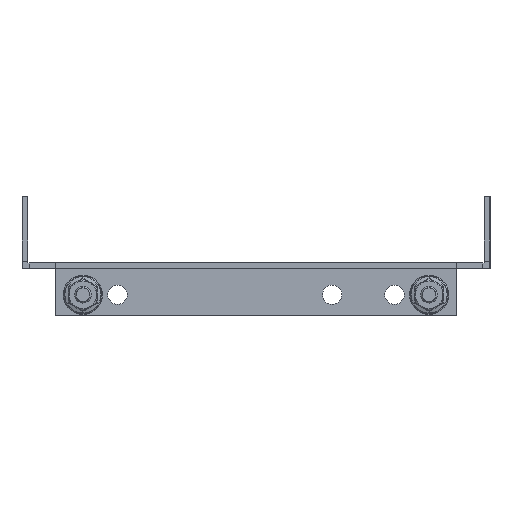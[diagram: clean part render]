
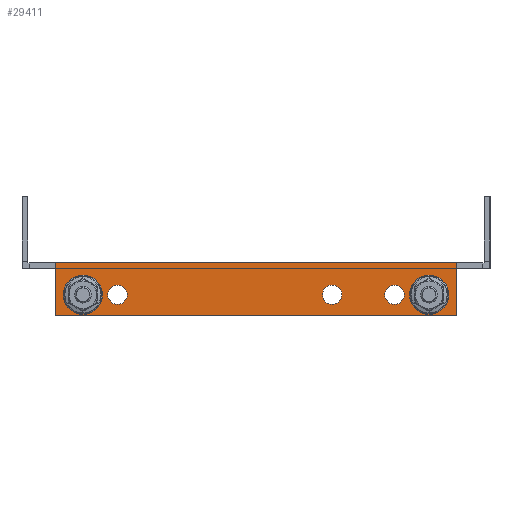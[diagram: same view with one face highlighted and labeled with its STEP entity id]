
A CAD part, left-side view. The second image highlights one B-rep face of the part: STEP entity #29411.
In plain terms, the highlighted planar face has unit normal (-1, 0, 0).
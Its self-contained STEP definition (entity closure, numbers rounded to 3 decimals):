
#13334 = VERTEX_POINT('',#13335);
#13335 = CARTESIAN_POINT('',(-450.,72.5,2.));
#13341 = EDGE_CURVE('',#13342,#13334,#13344,.T.);
#13342 = VERTEX_POINT('',#13343);
#13343 = CARTESIAN_POINT('',(-450.,-72.5,2.));
#13344 = LINE('',#13345,#13346);
#13345 = CARTESIAN_POINT('',(-450.,-82.5,2.));
#13346 = VECTOR('',#13347,1.);
#13347 = DIRECTION('',(-0.,1.,-0.));
#29290 = VERTEX_POINT('',#29291);
#29291 = CARTESIAN_POINT('',(-450.,-72.5,-0.6));
#29306 = EDGE_CURVE('',#29290,#13342,#29307,.T.);
#29307 = LINE('',#29308,#29309);
#29308 = CARTESIAN_POINT('',(-450.,-72.5,-0.6));
#29309 = VECTOR('',#29310,1.);
#29310 = DIRECTION('',(0.,-0.,1.));
#29330 = VERTEX_POINT('',#29331);
#29331 = CARTESIAN_POINT('',(-450.,72.5,-0.6));
#29337 = EDGE_CURVE('',#29330,#13334,#29338,.T.);
#29338 = LINE('',#29339,#29340);
#29339 = CARTESIAN_POINT('',(-450.,72.5,0.));
#29340 = VECTOR('',#29341,1.);
#29341 = DIRECTION('',(0.,0.,1.));
#29353 = EDGE_CURVE('',#29354,#29330,#29356,.T.);
#29354 = VERTEX_POINT('',#29355);
#29355 = CARTESIAN_POINT('',(-450.,72.5,-17.));
#29356 = LINE('',#29357,#29358);
#29357 = CARTESIAN_POINT('',(-450.,72.5,0.));
#29358 = VECTOR('',#29359,1.);
#29359 = DIRECTION('',(0.,-0.,1.));
#29393 = EDGE_CURVE('',#29290,#29394,#29396,.T.);
#29394 = VERTEX_POINT('',#29395);
#29395 = CARTESIAN_POINT('',(-450.,-72.5,-17.));
#29396 = LINE('',#29397,#29398);
#29397 = CARTESIAN_POINT('',(-450.,-72.5,-17.));
#29398 = VECTOR('',#29399,1.);
#29399 = DIRECTION('',(0.,0.,-1.));
#29411 = ADVANCED_FACE('',(#29412,#29423,#29443,#29463,#29474,#29485),
  #29498,.T.);
#29412 = FACE_BOUND('',#29413,.T.);
#29413 = EDGE_LOOP('',(#29414));
#29414 = ORIENTED_EDGE('',*,*,#29415,.T.);
#29415 = EDGE_CURVE('',#29416,#29416,#29418,.T.);
#29416 = VERTEX_POINT('',#29417);
#29417 = CARTESIAN_POINT('',(-450.,-27.5,-13.));
#29418 = CIRCLE('',#29419,3.5);
#29419 = AXIS2_PLACEMENT_3D('',#29420,#29421,#29422);
#29420 = CARTESIAN_POINT('',(-450.,-27.5,-9.5));
#29421 = DIRECTION('',(1.,0.,0.));
#29422 = DIRECTION('',(0.,-0.,-1.));
#29423 = FACE_BOUND('',#29424,.T.);
#29424 = EDGE_LOOP('',(#29425,#29436));
#29425 = ORIENTED_EDGE('',*,*,#29426,.F.);
#29426 = EDGE_CURVE('',#29427,#29429,#29431,.T.);
#29427 = VERTEX_POINT('',#29428);
#29428 = CARTESIAN_POINT('',(-450.,-62.5,-13.));
#29429 = VERTEX_POINT('',#29430);
#29430 = CARTESIAN_POINT('',(-450.,-62.5,-6.));
#29431 = CIRCLE('',#29432,3.5);
#29432 = AXIS2_PLACEMENT_3D('',#29433,#29434,#29435);
#29433 = CARTESIAN_POINT('',(-450.,-62.5,-9.5));
#29434 = DIRECTION('',(-1.,0.,0.));
#29435 = DIRECTION('',(0.,0.,-1.));
#29436 = ORIENTED_EDGE('',*,*,#29437,.F.);
#29437 = EDGE_CURVE('',#29429,#29427,#29438,.T.);
#29438 = CIRCLE('',#29439,3.5);
#29439 = AXIS2_PLACEMENT_3D('',#29440,#29441,#29442);
#29440 = CARTESIAN_POINT('',(-450.,-62.5,-9.5));
#29441 = DIRECTION('',(-1.,0.,0.));
#29442 = DIRECTION('',(0.,0.,-1.));
#29443 = FACE_BOUND('',#29444,.T.);
#29444 = EDGE_LOOP('',(#29445,#29456));
#29445 = ORIENTED_EDGE('',*,*,#29446,.F.);
#29446 = EDGE_CURVE('',#29447,#29449,#29451,.T.);
#29447 = VERTEX_POINT('',#29448);
#29448 = CARTESIAN_POINT('',(-450.,-50.,-13.));
#29449 = VERTEX_POINT('',#29450);
#29450 = CARTESIAN_POINT('',(-450.,-50.,-6.));
#29451 = CIRCLE('',#29452,3.5);
#29452 = AXIS2_PLACEMENT_3D('',#29453,#29454,#29455);
#29453 = CARTESIAN_POINT('',(-450.,-50.,-9.5));
#29454 = DIRECTION('',(-1.,0.,0.));
#29455 = DIRECTION('',(0.,0.,-1.));
#29456 = ORIENTED_EDGE('',*,*,#29457,.F.);
#29457 = EDGE_CURVE('',#29449,#29447,#29458,.T.);
#29458 = CIRCLE('',#29459,3.5);
#29459 = AXIS2_PLACEMENT_3D('',#29460,#29461,#29462);
#29460 = CARTESIAN_POINT('',(-450.,-50.,-9.5));
#29461 = DIRECTION('',(-1.,0.,0.));
#29462 = DIRECTION('',(0.,0.,-1.));
#29463 = FACE_BOUND('',#29464,.T.);
#29464 = EDGE_LOOP('',(#29465));
#29465 = ORIENTED_EDGE('',*,*,#29466,.F.);
#29466 = EDGE_CURVE('',#29467,#29467,#29469,.T.);
#29467 = VERTEX_POINT('',#29468);
#29468 = CARTESIAN_POINT('',(-450.,50.,-6.));
#29469 = CIRCLE('',#29470,3.5);
#29470 = AXIS2_PLACEMENT_3D('',#29471,#29472,#29473);
#29471 = CARTESIAN_POINT('',(-450.,50.,-9.5));
#29472 = DIRECTION('',(-1.,0.,0.));
#29473 = DIRECTION('',(0.,0.,1.));
#29474 = FACE_BOUND('',#29475,.T.);
#29475 = EDGE_LOOP('',(#29476));
#29476 = ORIENTED_EDGE('',*,*,#29477,.F.);
#29477 = EDGE_CURVE('',#29478,#29478,#29480,.T.);
#29478 = VERTEX_POINT('',#29479);
#29479 = CARTESIAN_POINT('',(-450.,62.5,-6.));
#29480 = CIRCLE('',#29481,3.5);
#29481 = AXIS2_PLACEMENT_3D('',#29482,#29483,#29484);
#29482 = CARTESIAN_POINT('',(-450.,62.5,-9.5));
#29483 = DIRECTION('',(-1.,0.,0.));
#29484 = DIRECTION('',(0.,0.,1.));
#29485 = FACE_BOUND('',#29486,.T.);
#29486 = EDGE_LOOP('',(#29487,#29488,#29489,#29490,#29491,#29492));
#29487 = ORIENTED_EDGE('',*,*,#29393,.F.);
#29488 = ORIENTED_EDGE('',*,*,#29306,.T.);
#29489 = ORIENTED_EDGE('',*,*,#13341,.T.);
#29490 = ORIENTED_EDGE('',*,*,#29337,.F.);
#29491 = ORIENTED_EDGE('',*,*,#29353,.F.);
#29492 = ORIENTED_EDGE('',*,*,#29493,.F.);
#29493 = EDGE_CURVE('',#29394,#29354,#29494,.T.);
#29494 = LINE('',#29495,#29496);
#29495 = CARTESIAN_POINT('',(-450.,72.5,-17.));
#29496 = VECTOR('',#29497,1.);
#29497 = DIRECTION('',(-0.,1.,-0.));
#29498 = PLANE('',#29499);
#29499 = AXIS2_PLACEMENT_3D('',#29500,#29501,#29502);
#29500 = CARTESIAN_POINT('',(-450.,72.5,0.));
#29501 = DIRECTION('',(-1.,0.,0.));
#29502 = DIRECTION('',(0.,0.,1.));
